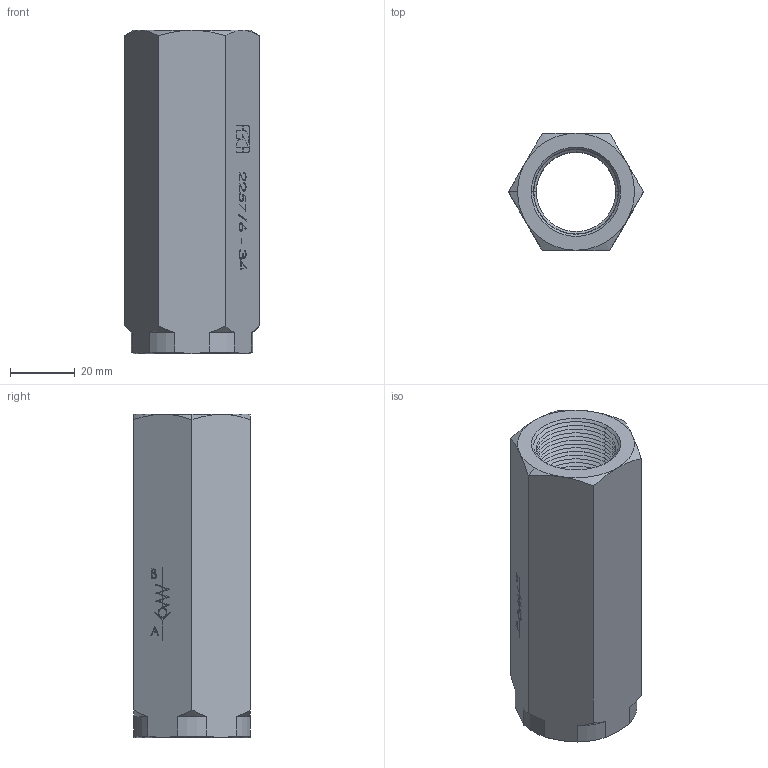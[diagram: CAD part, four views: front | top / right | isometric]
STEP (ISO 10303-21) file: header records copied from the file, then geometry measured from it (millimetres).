
FILE_DESCRIPTION (( 'STEP AP214' ), '1' );
FILE_NAME ('2257-6-34.STEP', '2015-04-08T20:18:21', ( '' ), ( '' ), 'SwSTEP 2.0', 'SolidWorks 2014', '' );
FILE_SCHEMA (( 'AUTOMOTIVE_DESIGN' ));
Length unit declared in the file: millimetre
Products named in the file (1): 2257-6-34
Bounding box: 41.57 x 36 x 99.5 mm (x, y, z)
Surface area: 17193.6 mm2 (no closed solid volume)
Topology: 0 solids, 14 shells, 312 faces, 898 edges, 580 vertices
Faces by surface type: plane 146, cone 101, bspline 45, cylinder 20
Entity records: 16252 total; most frequent: CARTESIAN_POINT 5024, ORIENTED_EDGE 1588, DIRECTION 1460, EDGE_CURVE 898, VECTOR 592, LINE 592, VERTEX_POINT 580, AXIS2_PLACEMENT_3D 434
